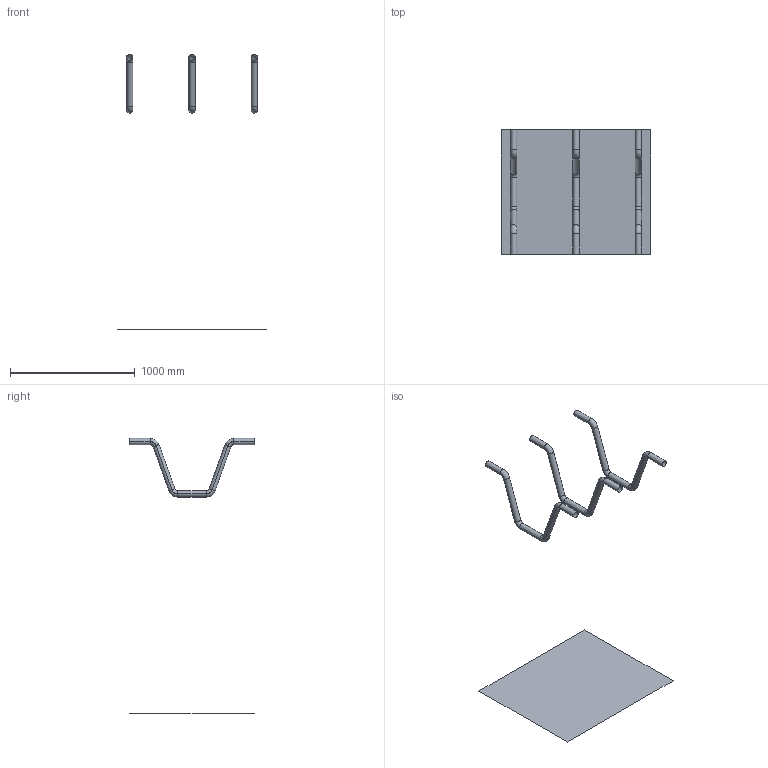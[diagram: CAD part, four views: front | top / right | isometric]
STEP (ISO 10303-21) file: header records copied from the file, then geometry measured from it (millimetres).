
FILE_DESCRIPTION(('CATIA V5 STEP Exchange'),'2;1');
FILE_NAME('C:\_Andres\UNIVERSIDAD\IQS\ASIGNATURAS\DAO\EXF\EXF-16172c\2inicio\Munar_Parra_Ej08_v20.stp','2017-03-05T21:54:54+00:00',('none'),('none'),'CATIA Version 5-6 Release 2014 SP1 HF18','CATIA V5 STEP AP203','none');
FILE_SCHEMA(('CONFIG_CONTROL_DESIGN'));
Length unit declared in the file: millimetre
Products named in the file (1): Munar_Parra_Ej08_v20
Bounding box: 1200 x 1000 x 2205 mm (x, y, z)
Surface area: 1933073.8 mm2 (no closed solid volume)
Topology: 0 solids, 4 shells, 55 faces, 118 edges, 64 vertices
Faces by surface type: cylinder 30, torus 24, plane 1
Entity records: 1283 total; most frequent: ORIENTED_EDGE 220, CARTESIAN_POINT 208, DIRECTION 168, EDGE_CURVE 118, AXIS2_PLACEMENT_3D 110, CIRCLE 84, VERTEX_POINT 64, ADVANCED_FACE 55
